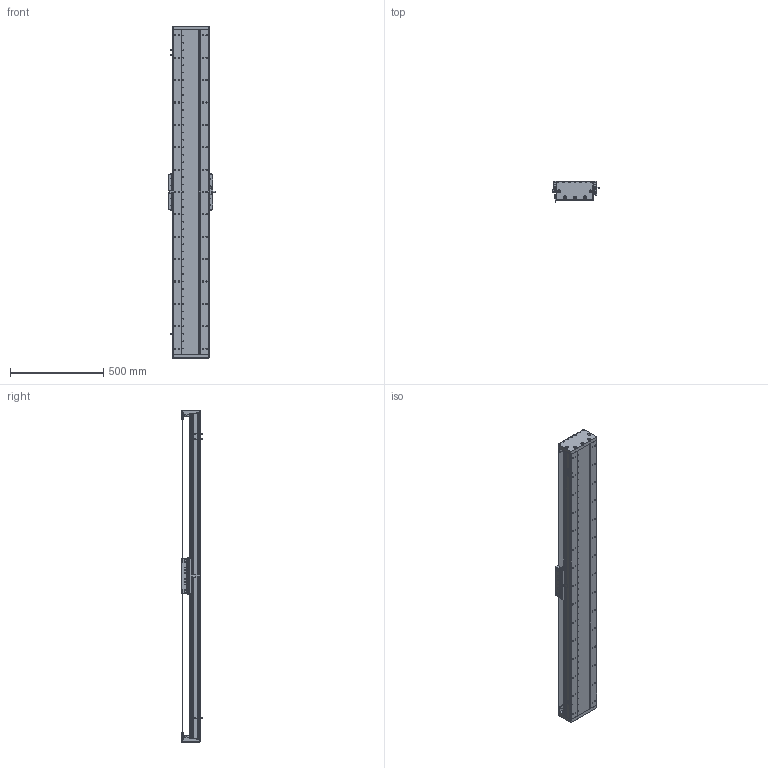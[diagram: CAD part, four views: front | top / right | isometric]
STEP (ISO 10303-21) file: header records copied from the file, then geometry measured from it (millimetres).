
FILE_DESCRIPTION (( 'STEP AP203' ), '1' );
FILE_NAME ('DA-C195-C2-T1500-C010-0.2 眻盄萇儂.STEP', '2025-08-15T01:06:42', ( '' ), ( '' ), 'SwSTEP 2.0', 'SolidWorks 2019', '' );
FILE_SCHEMA (( 'CONFIG_CONTROL_DESIGN' ));
Length unit declared in the file: millimetre
Products named in the file (15): CU195-C2賑輸-俋楷; LMT黍杅芛; 葩璃 DA95-GT-T-00; DA195詩湍嶺輸; DA195詩湍郪璃; DA165-GYP-00 光电感应片(默认); DA195詩湍菜輸; MS200 棠掑喜S315-T1740; PM-T45ㄗ侂狟ㄘ; IU-CU195-L 菁釱絳寢; IU-CU195-L-00 菁釱(L1740); DA-C195-C2-T1500-C010-0.2 眻盄萇儂; DA-C195-GD-DB-H-00 傷啣; DA95-HXJ-00 遣喳砎蝶; DA195詩湍裔啣
Assembly tree (29 placements, depth 3):
  DA-C195-C2-T1500-C010-0.2 眻盄萇儂
    DA195詩湍郪璃
      DA195詩湍菜輸  x2
      DA195詩湍裔啣
      DA195詩湍嶺輸  x2
      DA95-HXJ-00 遣喳砎蝶  x8
      DA-C195-GD-DB-H-00 傷啣  x2
    IU-CU195-L 菁釱絳寢
      IU-CU195-L-00 菁釱(L1740)
      葩璃 DA95-GT-T-00  x4
    LMT黍杅芛
    MS200 棠掑喜S315-T1740
    PM-T45ㄗ侂狟ㄘ  x3
    DA165-GYP-00 光电感应片(默认)
    CU195-C2賑輸-俋楷
Bounding box: 248 x 115.45 x 1780 mm (x, y, z)
Volume: 10818292.1 mm3; surface area: 3146179.2 mm2
Topology: 66 solids, 130 shells, 4044 faces, 10939 edges, 6839 vertices
Faces by surface type: cylinder 2039, plane 1387, cone 530, torus 52, sphere 36
Entity records: 122775 total; most frequent: CARTESIAN_POINT 31126, ORIENTED_EDGE 18762, DIRECTION 18696, EDGE_CURVE 9381, AXIS2_PLACEMENT_3D 7005, VERTEX_POINT 6041, LINE 4686, VECTOR 4686
